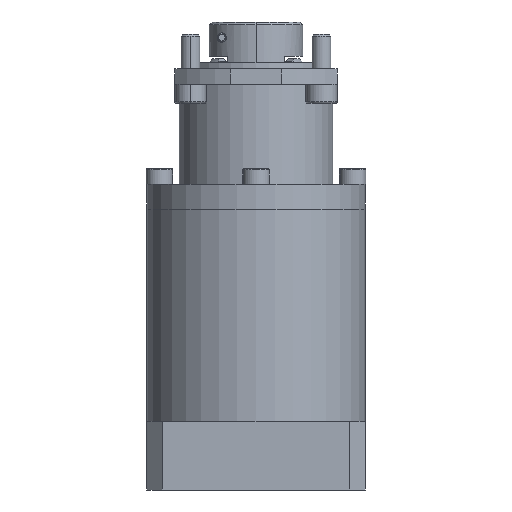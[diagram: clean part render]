
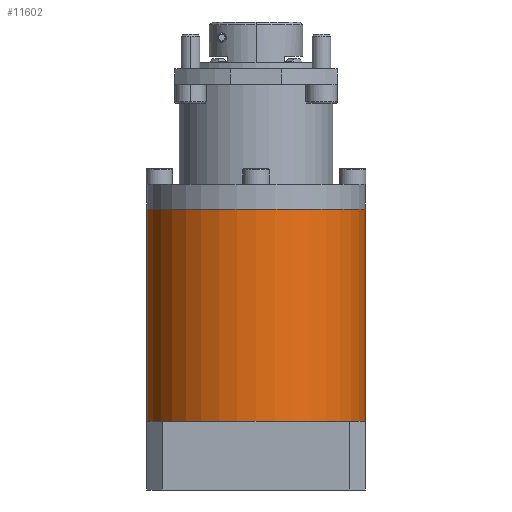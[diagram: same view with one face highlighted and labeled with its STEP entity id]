
A CAD part, front view. The second image highlights one B-rep face of the part: STEP entity #11602.
In plain terms, the highlighted cylindrical face has radius 35 mm (diameter 70 mm), a partial arc.
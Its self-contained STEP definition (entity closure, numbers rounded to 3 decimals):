
#482 = CARTESIAN_POINT ( 'NONE',  ( -27.474, 42.398, -41. ) ) ;
#780 = CARTESIAN_POINT ( 'NONE',  ( 7.526, 42.398, 27. ) ) ;
#2043 = CYLINDRICAL_SURFACE ( 'NONE', #4230, 35. ) ;
#2120 = EDGE_CURVE ( 'NONE', #3899, #4773, #12928, .T. ) ;
#2149 = DIRECTION ( 'NONE',  ( 0., 0., -1. ) ) ;
#2245 = VERTEX_POINT ( 'NONE', #5455 ) ;
#2818 = DIRECTION ( 'NONE',  ( 0., 0., -1. ) ) ;
#2947 = DIRECTION ( 'NONE',  ( 0., 0., -1. ) ) ;
#3779 = AXIS2_PLACEMENT_3D ( 'NONE', #4164, #11169, #5167 ) ;
#3899 = VERTEX_POINT ( 'NONE', #6785 ) ;
#4053 = EDGE_CURVE ( 'NONE', #9769, #2245, #6018, .T. ) ;
#4065 = DIRECTION ( 'NONE',  ( 0., 0., 1. ) ) ;
#4164 = CARTESIAN_POINT ( 'NONE',  ( 7.526, 42.398, -41. ) ) ;
#4230 = AXIS2_PLACEMENT_3D ( 'NONE', #780, #2818, #12745 ) ;
#4316 = ORIENTED_EDGE ( 'NONE', *, *, #4053, .T. ) ;
#4360 = LINE ( 'NONE', #10027, #9117 ) ;
#4379 = ORIENTED_EDGE ( 'NONE', *, *, #2120, .F. ) ;
#4773 = VERTEX_POINT ( 'NONE', #5873 ) ;
#5167 = DIRECTION ( 'NONE',  ( 1., 0., 0. ) ) ;
#5455 = CARTESIAN_POINT ( 'NONE',  ( 7.526, 7.398, -41. ) ) ;
#5522 = DIRECTION ( 'NONE',  ( 0., 0., 1. ) ) ;
#5873 = CARTESIAN_POINT ( 'NONE',  ( 42.526, 42.398, -41. ) ) ;
#6018 = CIRCLE ( 'NONE', #7145, 35. ) ;
#6593 = ORIENTED_EDGE ( 'NONE', *, *, #8129, .T. ) ;
#6785 = CARTESIAN_POINT ( 'NONE',  ( 42.526, 42.398, 27. ) ) ;
#6989 = VERTEX_POINT ( 'NONE', #7870 ) ;
#7030 = CIRCLE ( 'NONE', #3779, 35. ) ;
#7145 = AXIS2_PLACEMENT_3D ( 'NONE', #10120, #4065, #11072 ) ;
#7716 = VECTOR ( 'NONE', #2149, 1000. ) ;
#7831 = CIRCLE ( 'NONE', #12261, 35. ) ;
#7870 = CARTESIAN_POINT ( 'NONE',  ( -27.474, 42.398, 27. ) ) ;
#8129 = EDGE_CURVE ( 'NONE', #6989, #9769, #4360, .T. ) ;
#9117 = VECTOR ( 'NONE', #2947, 1000. ) ;
#9202 = EDGE_CURVE ( 'NONE', #6989, #3899, #7831, .T. ) ;
#9243 = CARTESIAN_POINT ( 'NONE',  ( 42.526, 42.398, 27. ) ) ;
#9559 = EDGE_CURVE ( 'NONE', #2245, #4773, #7030, .T. ) ;
#9656 = EDGE_LOOP ( 'NONE', ( #4379, #11222, #6593, #4316, #9669 ) ) ;
#9669 = ORIENTED_EDGE ( 'NONE', *, *, #9559, .T. ) ;
#9769 = VERTEX_POINT ( 'NONE', #482 ) ;
#10027 = CARTESIAN_POINT ( 'NONE',  ( -27.474, 42.398, 27. ) ) ;
#10120 = CARTESIAN_POINT ( 'NONE',  ( 7.526, 42.398, -41. ) ) ;
#11072 = DIRECTION ( 'NONE',  ( 1., 0., 0. ) ) ;
#11169 = DIRECTION ( 'NONE',  ( 0., 0., 1. ) ) ;
#11222 = ORIENTED_EDGE ( 'NONE', *, *, #9202, .F. ) ;
#11519 = CARTESIAN_POINT ( 'NONE',  ( 7.526, 42.398, 27. ) ) ;
#11602 = ADVANCED_FACE ( 'NONE', ( #12968 ), #2043, .T. ) ;
#12261 = AXIS2_PLACEMENT_3D ( 'NONE', #11519, #5522, #12483 ) ;
#12483 = DIRECTION ( 'NONE',  ( 1., 0., 0. ) ) ;
#12745 = DIRECTION ( 'NONE',  ( -1., 0., 0. ) ) ;
#12928 = LINE ( 'NONE', #9243, #7716 ) ;
#12968 = FACE_OUTER_BOUND ( 'NONE', #9656, .T. ) ;
